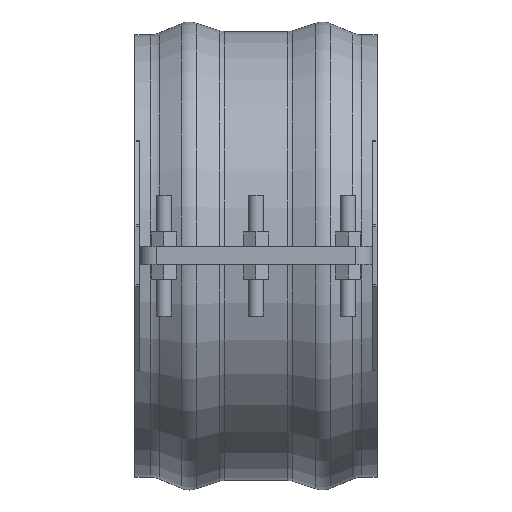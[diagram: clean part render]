
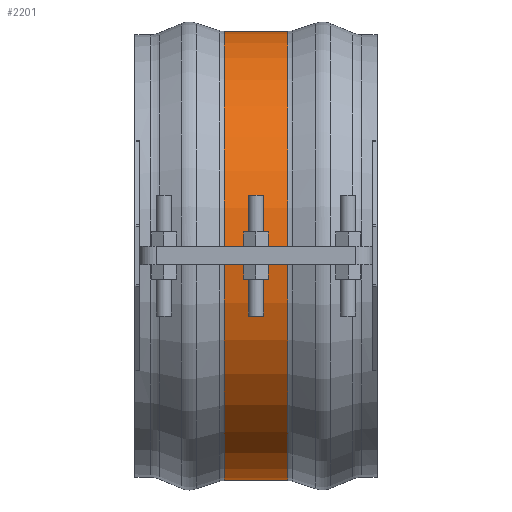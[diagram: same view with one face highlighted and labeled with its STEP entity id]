
A CAD part, top view. The second image highlights one B-rep face of the part: STEP entity #2201.
In plain terms, the highlighted cylindrical face has radius 235.649 mm (diameter 471.298 mm), a partial arc.
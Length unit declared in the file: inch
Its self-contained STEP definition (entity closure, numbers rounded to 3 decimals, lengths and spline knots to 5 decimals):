
#257=FACE_OUTER_BOUND('',#382,.T.);
#382=EDGE_LOOP('',(#1818,#1819,#1820,#1821));
#574=LINE('',#3584,#753);
#577=LINE('',#3669,#756);
#753=VECTOR('',#2893,0.3937);
#756=VECTOR('',#2904,0.3937);
#816=CIRCLE('',#2384,9.27751);
#817=CIRCLE('',#2386,9.27751);
#1017=VERTEX_POINT('',#3576);
#1018=VERTEX_POINT('',#3583);
#1029=VERTEX_POINT('',#3661);
#1030=VERTEX_POINT('',#3668);
#1290=EDGE_CURVE('',#1018,#1017,#574,.T.);
#1305=EDGE_CURVE('',#1030,#1029,#577,.T.);
#1316=EDGE_CURVE('',#1018,#1029,#816,.T.);
#1317=EDGE_CURVE('',#1017,#1030,#817,.T.);
#1818=ORIENTED_EDGE('',*,*,#1290,.T.);
#1819=ORIENTED_EDGE('',*,*,#1317,.T.);
#1820=ORIENTED_EDGE('',*,*,#1305,.T.);
#1821=ORIENTED_EDGE('',*,*,#1316,.F.);
#1994=CYLINDRICAL_SURFACE('',#2385,9.27751);
#2201=ADVANCED_FACE('',(#257),#1994,.T.);
#2384=AXIS2_PLACEMENT_3D('',#3717,#2925,#2926);
#2385=AXIS2_PLACEMENT_3D('',#3718,#2927,#2928);
#2386=AXIS2_PLACEMENT_3D('',#3719,#2929,#2930);
#2893=DIRECTION('',(-1.,0.,0.));
#2904=DIRECTION('',(1.,0.,0.));
#2925=DIRECTION('center_axis',(1.,0.,0.));
#2926=DIRECTION('ref_axis',(0.,0.,-1.));
#2927=DIRECTION('center_axis',(1.,0.,0.));
#2928=DIRECTION('ref_axis',(0.,0.,-1.));
#2929=DIRECTION('center_axis',(1.,0.,0.));
#2930=DIRECTION('ref_axis',(0.,0.,-1.));
#3576=CARTESIAN_POINT('',(-1.31451,-0.375,9.26993));
#3583=CARTESIAN_POINT('',(1.31451,-0.375,9.26993));
#3584=CARTESIAN_POINT('',(0.,-0.375,9.26993));
#3661=CARTESIAN_POINT('',(1.31451,0.375,9.26993));
#3668=CARTESIAN_POINT('',(-1.31451,0.375,9.26993));
#3669=CARTESIAN_POINT('',(0.,0.375,9.26993));
#3717=CARTESIAN_POINT('Origin',(1.31451,0.,0.));
#3718=CARTESIAN_POINT('Origin',(0.,0.,0.));
#3719=CARTESIAN_POINT('Origin',(-1.31451,0.,0.));
